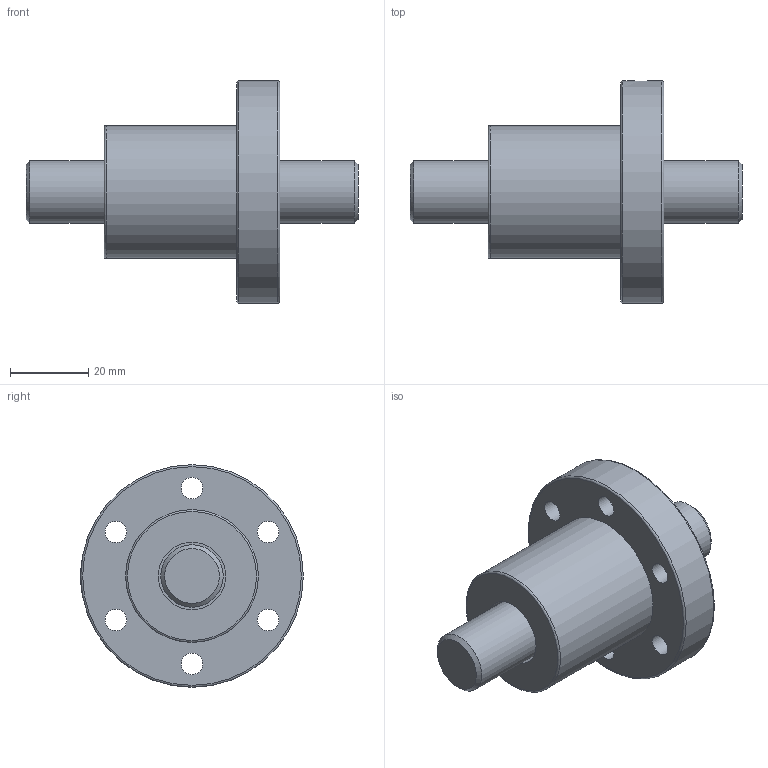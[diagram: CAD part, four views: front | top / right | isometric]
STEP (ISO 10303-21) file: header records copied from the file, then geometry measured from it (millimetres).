
FILE_DESCRIPTION(/* description */ ('Unknown','CAx-IF Rec.Pracs.---Representation and Presentation of Product Manufacturing Information (PMI)---4.0---2014-10-13','CAx-IF Rec.Pracs.---3D Tessellated Geometry---0.4---2014-09-14','2;1'),/* implementation_level */ '2;1');
FILE_NAME(/* name */ 'SFV01604-3.8',/* time_stamp */ '2020-12-08T09:40:51+08:00',/* author */ ('Unknown'),/* organization */ ('Unknown'),/* preprocessor_version */ 'ST-DEVELOPER v16.7',/* originating_system */ 'Solid Edge',/* authorisation */ 'Unknown');
FILE_SCHEMA (('AP242_MANAGED_MODEL_BASED_3D_ENGINEERING_MIM_LF { 1 0 10303 442 1 1 4 }'));
Length unit declared in the file: millimetre
Products named in the file (1): SFV01604-3.8
Bounding box: 85 x 57 x 57 mm (x, y, z)
Volume: 62141.8 mm3; surface area: 18242.4 mm2
Topology: 1 solids, 1 shells, 43 faces, 88 edges, 58 vertices
Faces by surface type: cylinder 21, plane 14, cone 3, torus 3, bspline 2
Full cylindrical faces by diameter (mm): 4 x1, 4.917 x1, 5.5 x6, 9.5 x6, 16 x2, 17.3 x1, 34 x1, 57 x1
Entity records: 3116 total; most frequent: CARTESIAN_POINT 2247, DIRECTION 180, ORIENTED_EDGE 110, EDGE_LOOP 91, FACE_BOUND 91, AXIS2_PLACEMENT_3D 91, EDGE_CURVE 55, VERTEX_POINT 50
